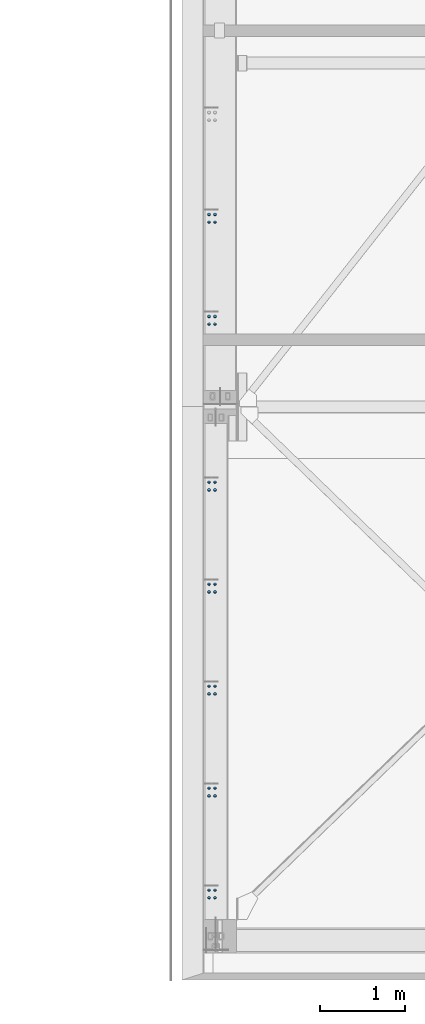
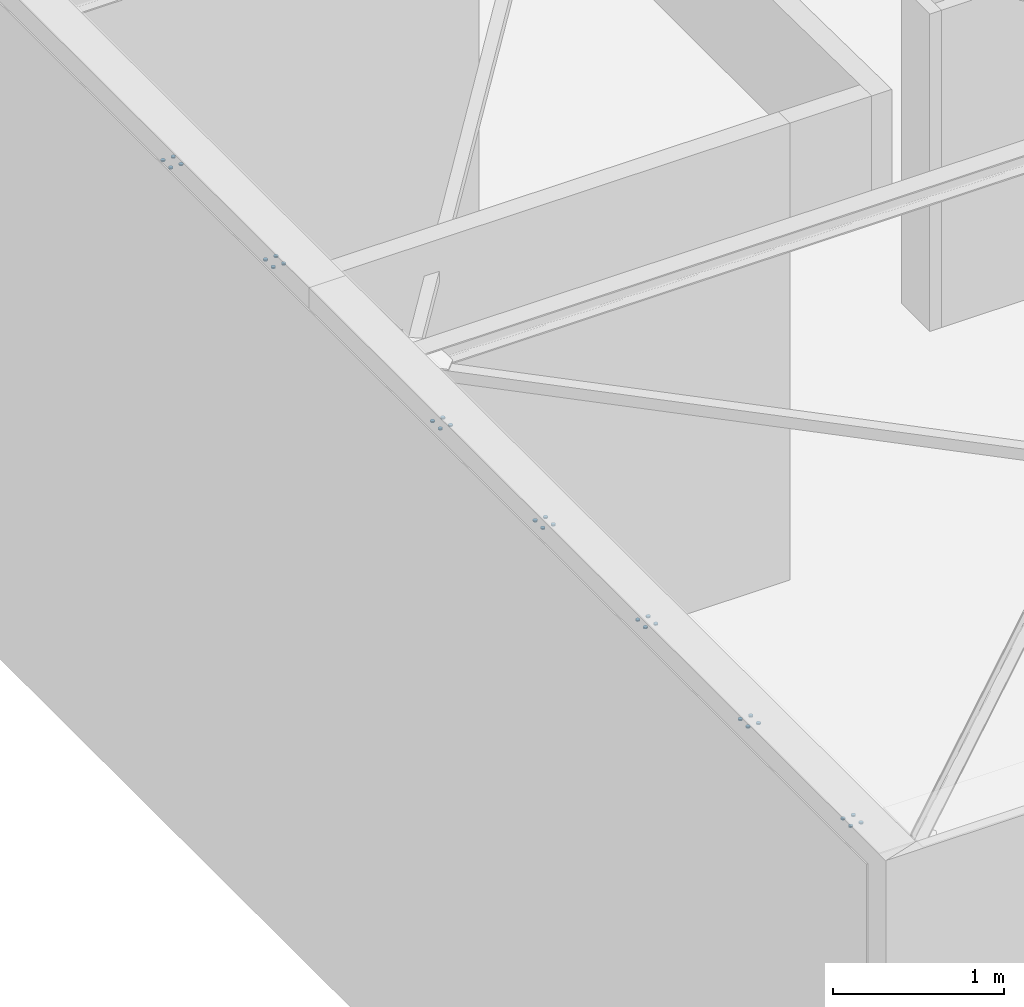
# One storey, part 2 of 186: 28 columns.
"""IFC4X3_ADD2 building model written with IfcOpenShell, lengths in millimetres."""

from ifc_helpers import new_model, si_unit, direction, frame, origin_with_axes, place, context, subcontext, project, spatial, polyline, outline, extrude, element, save


model = new_model("IFC4X3_ADD2")

# Units and contexts
model_context = context("Model", 3, precision=1e-05, world=origin_with_axes(), true_north=direction((0.0, 1.0)))
body_context = subcontext(model_context, "Body", "Model", "MODEL_VIEW")
ifc_project = project(units=[si_unit("LENGTHUNIT", "METRE", prefix="MILLI"), si_unit("AREAUNIT", "SQUARE_METRE"), si_unit("VOLUMEUNIT", "CUBIC_METRE"), si_unit("PLANEANGLEUNIT", "RADIAN"), si_unit("TIMEUNIT", "SECOND"), si_unit("MASSUNIT", "GRAM")], contexts=[model_context])

# Site, building, storey
site_placement = place(None, origin_with_axes())
site = spatial("IfcSite", under=ifc_project, at=site_placement, Name="Site", CompositionType="ELEMENT")
building_placement = place(site_placement, origin_with_axes())
building = spatial("IfcBuilding", under=site, at=building_placement, Name="IFC Building Story")
storey_placement = place(building_placement, frame((0.0, 0.0, 4370.0), z_axis=(0.0, 0.0, 1.0), x_axis=(1.0, 0.0, 0.0)))
storey = spatial("IfcBuildingStorey", under=building, at=storey_placement, Name="ETAGE 10 (1)", Elevation=4370.0)

# Columns
for number, where, z_axis, x_axis, name in (
    (1, (33254.08400610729, -7052.027115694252, 3249.431493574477), (0.0, 0.01500926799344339, 0.9998873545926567), (0.2588190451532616, -0.9658170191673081, 0.0144978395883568), "ZW9"),
    (2, (33324.0840061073, -7052.027115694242, 3249.431493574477), (0.0, 0.01500926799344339, 0.9998873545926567), (0.2588190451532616, -0.9658170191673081, 0.0144978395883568), "ZW9"),
):
    element("IfcColumn", number, at=place(storey_placement, frame(where, z_axis=z_axis, x_axis=x_axis)), inside=storey, Name=name, ObjectType="D28", context=body_context, shape_type="SweptSolid", body=[
        extrude(outline(polyline([(13.52296156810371, -3.623466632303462), (9.89949493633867, -9.899494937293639), (3.623466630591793, -13.52296156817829), (-3.623466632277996, -13.52296156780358), (-9.899494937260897, -9.899494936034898), (-13.52296156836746, -3.623466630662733), (-13.52296156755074, 3.623466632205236), (-9.899494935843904, 9.899494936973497), (-3.623466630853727, 13.52296156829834), (3.623466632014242, 13.52296156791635), (9.899494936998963, 9.899494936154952), (13.52296156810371, 3.623466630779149), (13.52296156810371, -3.623466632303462)])), frame((13.66889146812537, 13.52214528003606, 0.06449688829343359), z_axis=(0.0, 0.0, 1.0), x_axis=(1.0, 0.0, 0.0)), (0.0, 0.0, 1.0), 10.00000000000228),
    ])
column_1_placement = place(storey_placement, frame((33324.0840061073, -6962.037253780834, 3248.080659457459), z_axis=(0.0, 0.01500926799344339, 0.9998873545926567), x_axis=(0.2588190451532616, -0.9658170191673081, 0.0144978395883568)))
element("IfcColumn", 3, at=column_1_placement, inside=storey, Name="ZW9", ObjectType="D28", context=body_context, shape_type="SweptSolid", body=[
    extrude(outline(polyline([(13.52296156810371, -3.623466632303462), (9.89949493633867, -9.899494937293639), (3.623466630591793, -13.52296156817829), (-3.623466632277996, -13.52296156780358), (-9.899494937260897, -9.899494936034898), (-13.52296156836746, -3.623466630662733), (-13.52296156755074, 3.623466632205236), (-9.899494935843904, 9.899494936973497), (-3.623466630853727, 13.52296156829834), (3.623466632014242, 13.52296156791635), (9.899494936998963, 9.899494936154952), (13.52296156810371, 3.623466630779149), (13.52296156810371, -3.623466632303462)])), frame((13.66889146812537, 13.52214528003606, 0.06449688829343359), z_axis=(0.0, 0.0, 1.0), x_axis=(1.0, 0.0, 0.0)), (0.0, 0.0, 1.0), 10.00000000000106),
])
column_2_placement = place(storey_placement, frame((33254.08400610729, -6962.037253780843, 3248.080659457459), z_axis=(0.0, 0.01500926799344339, 0.9998873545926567), x_axis=(0.2588190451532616, -0.9658170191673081, 0.0144978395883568)))
element("IfcColumn", 4, at=column_2_placement, inside=storey, Name="ZW9", ObjectType="D28", context=body_context, shape_type="SweptSolid", body=[
    extrude(outline(polyline([(13.52296156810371, -3.623466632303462), (9.89949493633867, -9.899494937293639), (3.623466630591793, -13.52296156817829), (-3.623466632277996, -13.52296156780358), (-9.899494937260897, -9.899494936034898), (-13.52296156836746, -3.623466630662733), (-13.52296156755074, 3.623466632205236), (-9.899494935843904, 9.899494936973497), (-3.623466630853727, 13.52296156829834), (3.623466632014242, 13.52296156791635), (9.899494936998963, 9.899494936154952), (13.52296156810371, 3.623466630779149), (13.52296156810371, -3.623466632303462)])), frame((13.66889146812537, 13.52214528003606, 0.06449688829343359), z_axis=(0.0, 0.0, 1.0), x_axis=(1.0, 0.0, 0.0)), (0.0, 0.0, 1.0), 10.00000000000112),
])
for number, where, z_axis, x_axis, name in (
    (5, (33254.08400610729, -5852.026352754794, 3230.789493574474), (0.0, 0.01500926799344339, 0.9998873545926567), (0.2588190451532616, -0.9658170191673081, 0.0144978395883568), "ZW9"),
    (6, (33324.0840061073, -5852.026352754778, 3230.789493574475), (0.0, 0.01500926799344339, 0.9998873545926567), (0.2588190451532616, -0.9658170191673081, 0.0144978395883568), "ZW9"),
):
    element("IfcColumn", number, at=place(storey_placement, frame(where, z_axis=z_axis, x_axis=x_axis)), inside=storey, Name=name, ObjectType="D28", context=body_context, shape_type="SweptSolid", body=[
        extrude(outline(polyline([(13.52296156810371, -3.623466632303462), (9.89949493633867, -9.899494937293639), (3.623466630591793, -13.52296156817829), (-3.623466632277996, -13.52296156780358), (-9.899494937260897, -9.899494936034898), (-13.52296156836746, -3.623466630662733), (-13.52296156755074, 3.623466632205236), (-9.899494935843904, 9.899494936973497), (-3.623466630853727, 13.52296156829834), (3.623466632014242, 13.52296156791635), (9.899494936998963, 9.899494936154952), (13.52296156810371, 3.623466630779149), (13.52296156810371, -3.623466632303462)])), frame((13.66889146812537, 13.52214528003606, 0.06449688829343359), z_axis=(0.0, 0.0, 1.0), x_axis=(1.0, 0.0, 0.0)), (0.0, 0.0, 1.0), 10.0),
    ])
column_3_placement = place(storey_placement, frame((33324.0840061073, -5762.036490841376, 3229.438659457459), z_axis=(0.0, 0.01500926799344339, 0.9998873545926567), x_axis=(0.2588190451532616, -0.9658170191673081, 0.0144978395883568)))
element("IfcColumn", 7, at=column_3_placement, inside=storey, Name="ZW9", ObjectType="D28", context=body_context, shape_type="SweptSolid", body=[
    extrude(outline(polyline([(13.52296156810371, -3.623466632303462), (9.89949493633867, -9.899494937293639), (3.623466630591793, -13.52296156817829), (-3.623466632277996, -13.52296156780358), (-9.899494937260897, -9.899494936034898), (-13.52296156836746, -3.623466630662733), (-13.52296156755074, 3.623466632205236), (-9.899494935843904, 9.899494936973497), (-3.623466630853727, 13.52296156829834), (3.623466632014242, 13.52296156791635), (9.899494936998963, 9.899494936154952), (13.52296156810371, 3.623466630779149), (13.52296156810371, -3.623466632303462)])), frame((13.66889146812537, 13.52214528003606, 0.06449688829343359), z_axis=(0.0, 0.0, 1.0), x_axis=(1.0, 0.0, 0.0)), (0.0, 0.0, 1.0), 10.00000000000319),
])
column_4_placement = place(storey_placement, frame((33254.08400610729, -5762.036490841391, 3229.438659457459), z_axis=(0.0, 0.01500926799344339, 0.9998873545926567), x_axis=(0.2588190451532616, -0.9658170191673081, 0.0144978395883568)))
element("IfcColumn", 8, at=column_4_placement, inside=storey, Name="ZW9", ObjectType="D28", context=body_context, shape_type="SweptSolid", body=[
    extrude(outline(polyline([(13.52296156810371, -3.623466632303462), (9.89949493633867, -9.899494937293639), (3.623466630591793, -13.52296156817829), (-3.623466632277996, -13.52296156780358), (-9.899494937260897, -9.899494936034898), (-13.52296156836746, -3.623466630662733), (-13.52296156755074, 3.623466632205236), (-9.899494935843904, 9.899494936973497), (-3.623466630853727, 13.52296156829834), (3.623466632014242, 13.52296156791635), (9.899494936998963, 9.899494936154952), (13.52296156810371, 3.623466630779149), (13.52296156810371, -3.623466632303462)])), frame((13.66889146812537, 13.52214528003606, 0.06449688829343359), z_axis=(0.0, 0.0, 1.0), x_axis=(1.0, 0.0, 0.0)), (0.0, 0.0, 1.0), 10.0000000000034),
])
for number, where, z_axis, x_axis, name in (
    (9, (33254.08400610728, -13803.9020394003, 3354.348493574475), (0.0, 0.01500926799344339, 0.9998873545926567), (0.2588190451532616, -0.9658170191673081, 0.0144978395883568), "ZW9"),
    (10, (33324.08400610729, -13803.90203940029, 3354.348493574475), (0.0, 0.01500926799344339, 0.9998873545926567), (0.2588190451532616, -0.9658170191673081, 0.0144978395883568), "ZW9"),
):
    element("IfcColumn", number, at=place(storey_placement, frame(where, z_axis=z_axis, x_axis=x_axis)), inside=storey, Name=name, ObjectType="D28", context=body_context, shape_type="SweptSolid", body=[
        extrude(outline(polyline([(13.52296156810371, -3.623466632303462), (9.89949493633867, -9.899494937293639), (3.623466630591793, -13.52296156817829), (-3.623466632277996, -13.52296156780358), (-9.899494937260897, -9.899494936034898), (-13.52296156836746, -3.623466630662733), (-13.52296156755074, 3.623466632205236), (-9.899494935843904, 9.899494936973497), (-3.623466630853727, 13.52296156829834), (3.623466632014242, 13.52296156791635), (9.899494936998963, 9.899494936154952), (13.52296156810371, 3.623466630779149), (13.52296156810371, -3.623466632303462)])), frame((13.66889146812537, 13.52214528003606, 0.06449688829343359), z_axis=(0.0, 0.0, 1.0), x_axis=(1.0, 0.0, 0.0)), (0.0, 0.0, 1.0), 10.0),
    ])
column_5_placement = place(storey_placement, frame((33324.0840061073, -13713.91217748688, 3352.997659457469), z_axis=(0.0, 0.01500926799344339, 0.9998873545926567), x_axis=(0.2588190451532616, -0.9658170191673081, 0.0144978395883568)))
element("IfcColumn", 11, at=column_5_placement, inside=storey, Name="ZW9", ObjectType="D28", context=body_context, shape_type="SweptSolid", body=[
    extrude(outline(polyline([(13.52296156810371, -3.623466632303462), (9.89949493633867, -9.899494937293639), (3.623466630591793, -13.52296156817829), (-3.623466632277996, -13.52296156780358), (-9.899494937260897, -9.899494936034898), (-13.52296156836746, -3.623466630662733), (-13.52296156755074, 3.623466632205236), (-9.899494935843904, 9.899494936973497), (-3.623466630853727, 13.52296156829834), (3.623466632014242, 13.52296156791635), (9.899494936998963, 9.899494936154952), (13.52296156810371, 3.623466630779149), (13.52296156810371, -3.623466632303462)])), frame((13.66889146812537, 13.52214528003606, 0.06449688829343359), z_axis=(0.0, 0.0, 1.0), x_axis=(1.0, 0.0, 0.0)), (0.0, 0.0, 1.0), 10.00000000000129),
])
column_6_placement = place(storey_placement, frame((33254.0840061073, -13713.91217748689, 3352.997659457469), z_axis=(0.0, 0.01500926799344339, 0.9998873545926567), x_axis=(0.2588190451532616, -0.9658170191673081, 0.0144978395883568)))
element("IfcColumn", 12, at=column_6_placement, inside=storey, Name="ZW9", ObjectType="D28", context=body_context, shape_type="SweptSolid", body=[
    extrude(outline(polyline([(13.52296156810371, -3.623466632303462), (9.89949493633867, -9.899494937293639), (3.623466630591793, -13.52296156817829), (-3.623466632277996, -13.52296156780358), (-9.899494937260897, -9.899494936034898), (-13.52296156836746, -3.623466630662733), (-13.52296156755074, 3.623466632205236), (-9.899494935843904, 9.899494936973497), (-3.623466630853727, 13.52296156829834), (3.623466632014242, 13.52296156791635), (9.899494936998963, 9.899494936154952), (13.52296156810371, 3.623466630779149), (13.52296156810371, -3.623466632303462)])), frame((13.66889146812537, 13.52214528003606, 0.06449688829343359), z_axis=(0.0, 0.0, 1.0), x_axis=(1.0, 0.0, 0.0)), (0.0, 0.0, 1.0), 10.00000000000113),
])
column_7_placement = place(storey_placement, frame((33254.08400610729, -12603.9012764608, 3335.694493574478), z_axis=(0.0, 0.01500926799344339, 0.9998873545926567), x_axis=(0.2588190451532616, -0.9658170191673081, 0.0144978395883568)))
element("IfcColumn", 13, at=column_7_placement, inside=storey, Name="ZW9", ObjectType="D28", context=body_context, shape_type="SweptSolid", body=[
    extrude(outline(polyline([(13.52296156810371, -3.623466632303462), (9.89949493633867, -9.899494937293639), (3.623466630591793, -13.52296156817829), (-3.623466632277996, -13.52296156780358), (-9.899494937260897, -9.899494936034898), (-13.52296156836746, -3.623466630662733), (-13.52296156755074, 3.623466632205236), (-9.899494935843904, 9.899494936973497), (-3.623466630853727, 13.52296156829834), (3.623466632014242, 13.52296156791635), (9.899494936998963, 9.899494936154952), (13.52296156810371, 3.623466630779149), (13.52296156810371, -3.623466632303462)])), frame((13.66889146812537, 13.52214528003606, 0.06449688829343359), z_axis=(0.0, 0.0, 1.0), x_axis=(1.0, 0.0, 0.0)), (0.0, 0.0, 1.0), 10.0000000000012),
])
column_8_placement = place(storey_placement, frame((33324.0840061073, -12603.90127646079, 3335.694493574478), z_axis=(0.0, 0.01500926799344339, 0.9998873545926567), x_axis=(0.2588190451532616, -0.9658170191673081, 0.0144978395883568)))
element("IfcColumn", 14, at=column_8_placement, inside=storey, Name="ZW9", ObjectType="D28", context=body_context, shape_type="SweptSolid", body=[
    extrude(outline(polyline([(13.52296156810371, -3.623466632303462), (9.89949493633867, -9.899494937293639), (3.623466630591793, -13.52296156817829), (-3.623466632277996, -13.52296156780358), (-9.899494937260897, -9.899494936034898), (-13.52296156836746, -3.623466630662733), (-13.52296156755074, 3.623466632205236), (-9.899494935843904, 9.899494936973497), (-3.623466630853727, 13.52296156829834), (3.623466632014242, 13.52296156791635), (9.899494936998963, 9.899494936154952), (13.52296156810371, 3.623466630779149), (13.52296156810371, -3.623466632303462)])), frame((13.66889146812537, 13.52214528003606, 0.06449688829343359), z_axis=(0.0, 0.0, 1.0), x_axis=(1.0, 0.0, 0.0)), (0.0, 0.0, 1.0), 10.00000000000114),
])
column_9_placement = place(storey_placement, frame((33324.0840061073, -12513.91141454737, 3334.343659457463), z_axis=(0.0, 0.01500926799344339, 0.9998873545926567), x_axis=(0.2588190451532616, -0.9658170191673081, 0.0144978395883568)))
element("IfcColumn", 15, at=column_9_placement, inside=storey, Name="ZW9", ObjectType="D28", context=body_context, shape_type="SweptSolid", body=[
    extrude(outline(polyline([(13.52296156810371, -3.623466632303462), (9.89949493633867, -9.899494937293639), (3.623466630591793, -13.52296156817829), (-3.623466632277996, -13.52296156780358), (-9.899494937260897, -9.899494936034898), (-13.52296156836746, -3.623466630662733), (-13.52296156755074, 3.623466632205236), (-9.899494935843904, 9.899494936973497), (-3.623466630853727, 13.52296156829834), (3.623466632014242, 13.52296156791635), (9.899494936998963, 9.899494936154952), (13.52296156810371, 3.623466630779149), (13.52296156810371, -3.623466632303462)])), frame((13.66889146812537, 13.52214528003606, 0.06449688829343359), z_axis=(0.0, 0.0, 1.0), x_axis=(1.0, 0.0, 0.0)), (0.0, 0.0, 1.0), 10.00000000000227),
])
column_10_placement = place(storey_placement, frame((33254.08400610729, -12513.91141454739, 3334.343659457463), z_axis=(0.0, 0.01500926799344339, 0.9998873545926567), x_axis=(0.2588190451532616, -0.9658170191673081, 0.0144978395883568)))
element("IfcColumn", 16, at=column_10_placement, inside=storey, Name="ZW9", ObjectType="D28", context=body_context, shape_type="SweptSolid", body=[
    extrude(outline(polyline([(13.52296156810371, -3.623466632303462), (9.89949493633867, -9.899494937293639), (3.623466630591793, -13.52296156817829), (-3.623466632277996, -13.52296156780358), (-9.899494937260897, -9.899494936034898), (-13.52296156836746, -3.623466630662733), (-13.52296156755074, 3.623466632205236), (-9.899494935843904, 9.899494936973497), (-3.623466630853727, 13.52296156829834), (3.623466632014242, 13.52296156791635), (9.899494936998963, 9.899494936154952), (13.52296156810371, 3.623466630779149), (13.52296156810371, -3.623466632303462)])), frame((13.66889146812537, 13.52214528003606, 0.06449688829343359), z_axis=(0.0, 0.0, 1.0), x_axis=(1.0, 0.0, 0.0)), (0.0, 0.0, 1.0), 10.00000000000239),
])
column_11_placement = place(storey_placement, frame((33254.08400610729, -11403.90242086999, 3317.043493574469), z_axis=(0.0, 0.01500926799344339, 0.9998873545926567), x_axis=(0.2588190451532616, -0.9658170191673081, 0.0144978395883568)))
element("IfcColumn", 17, at=column_11_placement, inside=storey, Name="ZW9", ObjectType="D28", context=body_context, shape_type="SweptSolid", body=[
    extrude(outline(polyline([(13.52296156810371, -3.623466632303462), (9.89949493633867, -9.899494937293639), (3.623466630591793, -13.52296156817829), (-3.623466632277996, -13.52296156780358), (-9.899494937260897, -9.899494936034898), (-13.52296156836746, -3.623466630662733), (-13.52296156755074, 3.623466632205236), (-9.899494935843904, 9.899494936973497), (-3.623466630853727, 13.52296156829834), (3.623466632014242, 13.52296156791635), (9.899494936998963, 9.899494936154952), (13.52296156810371, 3.623466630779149), (13.52296156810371, -3.623466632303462)])), frame((13.66889146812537, 13.52214528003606, 0.06449688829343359), z_axis=(0.0, 0.0, 1.0), x_axis=(1.0, 0.0, 0.0)), (0.0, 0.0, 1.0), 10.00000000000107),
])
column_12_placement = place(storey_placement, frame((33324.0840061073, -11403.90242086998, 3317.043493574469), z_axis=(0.0, 0.01500926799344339, 0.9998873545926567), x_axis=(0.2588190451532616, -0.9658170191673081, 0.0144978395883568)))
element("IfcColumn", 18, at=column_12_placement, inside=storey, Name="ZW9", ObjectType="D28", context=body_context, shape_type="SweptSolid", body=[
    extrude(outline(polyline([(13.52296156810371, -3.623466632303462), (9.89949493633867, -9.899494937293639), (3.623466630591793, -13.52296156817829), (-3.623466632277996, -13.52296156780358), (-9.899494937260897, -9.899494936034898), (-13.52296156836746, -3.623466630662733), (-13.52296156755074, 3.623466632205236), (-9.899494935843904, 9.899494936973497), (-3.623466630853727, 13.52296156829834), (3.623466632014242, 13.52296156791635), (9.899494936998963, 9.899494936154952), (13.52296156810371, 3.623466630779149), (13.52296156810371, -3.623466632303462)])), frame((13.66889146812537, 13.52214528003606, 0.06449688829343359), z_axis=(0.0, 0.0, 1.0), x_axis=(1.0, 0.0, 0.0)), (0.0, 0.0, 1.0), 10.00000000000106),
])
column_13_placement = place(storey_placement, frame((33324.0840061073, -11313.91255895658, 3315.692659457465), z_axis=(0.0, 0.01500926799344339, 0.9998873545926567), x_axis=(0.2588190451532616, -0.9658170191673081, 0.0144978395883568)))
element("IfcColumn", 19, at=column_13_placement, inside=storey, Name="ZW9", ObjectType="D28", context=body_context, shape_type="SweptSolid", body=[
    extrude(outline(polyline([(13.52296156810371, -3.623466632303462), (9.89949493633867, -9.899494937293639), (3.623466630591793, -13.52296156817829), (-3.623466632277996, -13.52296156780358), (-9.899494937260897, -9.899494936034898), (-13.52296156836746, -3.623466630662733), (-13.52296156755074, 3.623466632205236), (-9.899494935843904, 9.899494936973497), (-3.623466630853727, 13.52296156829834), (3.623466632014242, 13.52296156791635), (9.899494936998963, 9.899494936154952), (13.52296156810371, 3.623466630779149), (13.52296156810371, -3.623466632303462)])), frame((13.66889146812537, 13.52214528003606, 0.06449688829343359), z_axis=(0.0, 0.0, 1.0), x_axis=(1.0, 0.0, 0.0)), (0.0, 0.0, 1.0), 9.999999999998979),
])
column_14_placement = place(storey_placement, frame((33254.08400610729, -11313.91255895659, 3315.692659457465), z_axis=(0.0, 0.01500926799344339, 0.9998873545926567), x_axis=(0.2588190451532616, -0.9658170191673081, 0.0144978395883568)))
element("IfcColumn", 20, at=column_14_placement, inside=storey, Name="ZW9", ObjectType="D28", context=body_context, shape_type="SweptSolid", body=[
    extrude(outline(polyline([(13.52296156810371, -3.623466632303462), (9.89949493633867, -9.899494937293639), (3.623466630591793, -13.52296156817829), (-3.623466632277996, -13.52296156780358), (-9.899494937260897, -9.899494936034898), (-13.52296156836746, -3.623466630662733), (-13.52296156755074, 3.623466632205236), (-9.899494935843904, 9.899494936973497), (-3.623466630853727, 13.52296156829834), (3.623466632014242, 13.52296156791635), (9.899494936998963, 9.899494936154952), (13.52296156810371, 3.623466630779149), (13.52296156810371, -3.623466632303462)])), frame((13.66889146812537, 13.52214528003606, 0.06449688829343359), z_axis=(0.0, 0.0, 1.0), x_axis=(1.0, 0.0, 0.0)), (0.0, 0.0, 1.0), 9.999999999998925),
])
column_15_placement = place(storey_placement, frame((33254.08400610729, -10203.9016579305, 3298.390493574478), z_axis=(0.0, 0.01500926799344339, 0.9998873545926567), x_axis=(0.2588190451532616, -0.9658170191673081, 0.0144978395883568)))
element("IfcColumn", 21, at=column_15_placement, inside=storey, Name="ZW9", ObjectType="D28", context=body_context, shape_type="SweptSolid", body=[
    extrude(outline(polyline([(13.52296156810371, -3.623466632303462), (9.89949493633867, -9.899494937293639), (3.623466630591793, -13.52296156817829), (-3.623466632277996, -13.52296156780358), (-9.899494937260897, -9.899494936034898), (-13.52296156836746, -3.623466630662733), (-13.52296156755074, 3.623466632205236), (-9.899494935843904, 9.899494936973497), (-3.623466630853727, 13.52296156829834), (3.623466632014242, 13.52296156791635), (9.899494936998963, 9.899494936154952), (13.52296156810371, 3.623466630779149), (13.52296156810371, -3.623466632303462)])), frame((13.66889146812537, 13.52214528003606, 0.06449688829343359), z_axis=(0.0, 0.0, 1.0), x_axis=(1.0, 0.0, 0.0)), (0.0, 0.0, 1.0), 10.00000000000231),
])
column_16_placement = place(storey_placement, frame((33324.0840061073, -10203.90165793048, 3298.390493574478), z_axis=(0.0, 0.01500926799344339, 0.9998873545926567), x_axis=(0.2588190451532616, -0.9658170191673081, 0.0144978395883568)))
element("IfcColumn", 22, at=column_16_placement, inside=storey, Name="ZW9", ObjectType="D28", context=body_context, shape_type="SweptSolid", body=[
    extrude(outline(polyline([(13.52296156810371, -3.623466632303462), (9.89949493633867, -9.899494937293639), (3.623466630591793, -13.52296156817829), (-3.623466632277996, -13.52296156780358), (-9.899494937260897, -9.899494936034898), (-13.52296156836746, -3.623466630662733), (-13.52296156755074, 3.623466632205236), (-9.899494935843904, 9.899494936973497), (-3.623466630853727, 13.52296156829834), (3.623466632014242, 13.52296156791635), (9.899494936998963, 9.899494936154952), (13.52296156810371, 3.623466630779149), (13.52296156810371, -3.623466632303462)])), frame((13.66889146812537, 13.52214528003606, 0.06449688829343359), z_axis=(0.0, 0.0, 1.0), x_axis=(1.0, 0.0, 0.0)), (0.0, 0.0, 1.0), 10.00000000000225),
])
column_17_placement = place(storey_placement, frame((33324.0840061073, -10113.91179601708, 3297.039659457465), z_axis=(0.0, 0.01500926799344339, 0.9998873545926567), x_axis=(0.2588190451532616, -0.9658170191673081, 0.0144978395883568)))
element("IfcColumn", 23, at=column_17_placement, inside=storey, Name="ZW9", ObjectType="D28", context=body_context, shape_type="SweptSolid", body=[
    extrude(outline(polyline([(13.52296156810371, -3.623466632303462), (9.89949493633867, -9.899494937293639), (3.623466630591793, -13.52296156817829), (-3.623466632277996, -13.52296156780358), (-9.899494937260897, -9.899494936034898), (-13.52296156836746, -3.623466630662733), (-13.52296156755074, 3.623466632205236), (-9.899494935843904, 9.899494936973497), (-3.623466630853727, 13.52296156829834), (3.623466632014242, 13.52296156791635), (9.899494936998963, 9.899494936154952), (13.52296156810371, 3.623466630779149), (13.52296156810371, -3.623466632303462)])), frame((13.66889146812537, 13.52214528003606, 0.06449688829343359), z_axis=(0.0, 0.0, 1.0), x_axis=(1.0, 0.0, 0.0)), (0.0, 0.0, 1.0), 10.00000000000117),
])
column_18_placement = place(storey_placement, frame((33254.08400610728, -10113.9117960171, 3297.039659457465), z_axis=(0.0, 0.01500926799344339, 0.9998873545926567), x_axis=(0.2588190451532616, -0.9658170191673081, 0.0144978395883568)))
element("IfcColumn", 24, at=column_18_placement, inside=storey, Name="ZW9", ObjectType="D28", context=body_context, shape_type="SweptSolid", body=[
    extrude(outline(polyline([(13.52296156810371, -3.623466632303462), (9.89949493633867, -9.899494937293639), (3.623466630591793, -13.52296156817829), (-3.623466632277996, -13.52296156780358), (-9.899494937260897, -9.899494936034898), (-13.52296156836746, -3.623466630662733), (-13.52296156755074, 3.623466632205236), (-9.899494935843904, 9.899494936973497), (-3.623466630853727, 13.52296156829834), (3.623466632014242, 13.52296156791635), (9.899494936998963, 9.899494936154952), (13.52296156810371, 3.623466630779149), (13.52296156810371, -3.623466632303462)])), frame((13.66889146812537, 13.52214528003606, 0.06449688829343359), z_axis=(0.0, 0.0, 1.0), x_axis=(1.0, 0.0, 0.0)), (0.0, 0.0, 1.0), 10.00000000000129),
])
column_19_placement = place(storey_placement, frame((33254.08400610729, -9003.900894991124, 3279.738493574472), z_axis=(0.0, 0.01500926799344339, 0.9998873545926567), x_axis=(0.2588190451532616, -0.9658170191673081, 0.0144978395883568)))
element("IfcColumn", 25, at=column_19_placement, inside=storey, Name="ZW9", ObjectType="D28", context=body_context, shape_type="SweptSolid", body=[
    extrude(outline(polyline([(13.52296156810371, -3.623466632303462), (9.89949493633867, -9.899494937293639), (3.623466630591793, -13.52296156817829), (-3.623466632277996, -13.52296156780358), (-9.899494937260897, -9.899494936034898), (-13.52296156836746, -3.623466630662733), (-13.52296156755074, 3.623466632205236), (-9.899494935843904, 9.899494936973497), (-3.623466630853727, 13.52296156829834), (3.623466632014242, 13.52296156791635), (9.899494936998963, 9.899494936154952), (13.52296156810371, 3.623466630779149), (13.52296156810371, -3.623466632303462)])), frame((13.66889146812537, 13.52214528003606, 0.06449688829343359), z_axis=(0.0, 0.0, 1.0), x_axis=(1.0, 0.0, 0.0)), (0.0, 0.0, 1.0), 10.00000000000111),
])
column_20_placement = place(storey_placement, frame((33324.0840061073, -9003.900894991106, 3279.738493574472), z_axis=(0.0, 0.01500926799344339, 0.9998873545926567), x_axis=(0.2588190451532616, -0.9658170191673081, 0.0144978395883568)))
element("IfcColumn", 26, at=column_20_placement, inside=storey, Name="ZW9", ObjectType="D28", context=body_context, shape_type="SweptSolid", body=[
    extrude(outline(polyline([(13.52296156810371, -3.623466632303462), (9.89949493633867, -9.899494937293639), (3.623466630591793, -13.52296156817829), (-3.623466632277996, -13.52296156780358), (-9.899494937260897, -9.899494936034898), (-13.52296156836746, -3.623466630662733), (-13.52296156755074, 3.623466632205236), (-9.899494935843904, 9.899494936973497), (-3.623466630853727, 13.52296156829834), (3.623466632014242, 13.52296156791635), (9.899494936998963, 9.899494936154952), (13.52296156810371, 3.623466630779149), (13.52296156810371, -3.623466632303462)])), frame((13.66889146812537, 13.52214528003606, 0.06449688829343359), z_axis=(0.0, 0.0, 1.0), x_axis=(1.0, 0.0, 0.0)), (0.0, 0.0, 1.0), 10.00000000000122),
])
column_21_placement = place(storey_placement, frame((33324.0840061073, -8913.911033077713, 3278.387659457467), z_axis=(0.0, 0.01500926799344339, 0.9998873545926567), x_axis=(0.2588190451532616, -0.9658170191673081, 0.0144978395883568)))
element("IfcColumn", 27, at=column_21_placement, inside=storey, Name="ZW9", ObjectType="D28", context=body_context, shape_type="SweptSolid", body=[
    extrude(outline(polyline([(13.52296156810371, -3.623466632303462), (9.89949493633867, -9.899494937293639), (3.623466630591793, -13.52296156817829), (-3.623466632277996, -13.52296156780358), (-9.899494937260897, -9.899494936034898), (-13.52296156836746, -3.623466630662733), (-13.52296156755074, 3.623466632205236), (-9.899494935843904, 9.899494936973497), (-3.623466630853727, 13.52296156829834), (3.623466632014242, 13.52296156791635), (9.899494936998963, 9.899494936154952), (13.52296156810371, 3.623466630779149), (13.52296156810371, -3.623466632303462)])), frame((13.66889146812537, 13.52214528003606, 0.06449688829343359), z_axis=(0.0, 0.0, 1.0), x_axis=(1.0, 0.0, 0.0)), (0.0, 0.0, 1.0), 10.00000000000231),
])
column_22_placement = place(storey_placement, frame((33254.08400610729, -8913.911033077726, 3278.387659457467), z_axis=(0.0, 0.01500926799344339, 0.9998873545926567), x_axis=(0.2588190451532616, -0.9658170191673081, 0.0144978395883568)))
element("IfcColumn", 28, at=column_22_placement, inside=storey, Name="ZW9", ObjectType="D28", context=body_context, shape_type="SweptSolid", body=[
    extrude(outline(polyline([(13.52296156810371, -3.623466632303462), (9.89949493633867, -9.899494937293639), (3.623466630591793, -13.52296156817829), (-3.623466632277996, -13.52296156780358), (-9.899494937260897, -9.899494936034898), (-13.52296156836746, -3.623466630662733), (-13.52296156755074, 3.623466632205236), (-9.899494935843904, 9.899494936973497), (-3.623466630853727, 13.52296156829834), (3.623466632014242, 13.52296156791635), (9.899494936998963, 9.899494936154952), (13.52296156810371, 3.623466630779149), (13.52296156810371, -3.623466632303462)])), frame((13.66889146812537, 13.52214528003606, 0.06449688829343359), z_axis=(0.0, 0.0, 1.0), x_axis=(1.0, 0.0, 0.0)), (0.0, 0.0, 1.0), 10.00000000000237),
])

save(model, "model.ifc")
